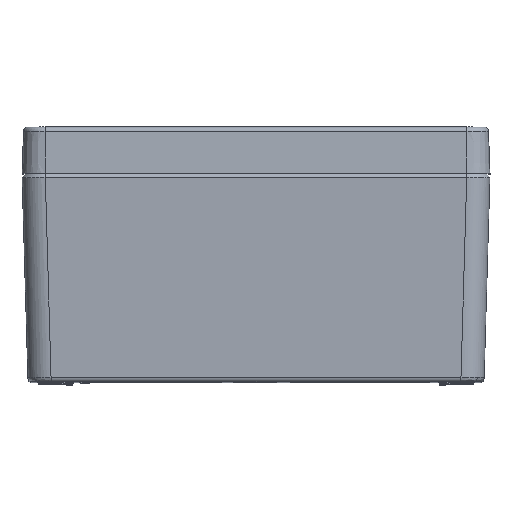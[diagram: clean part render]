
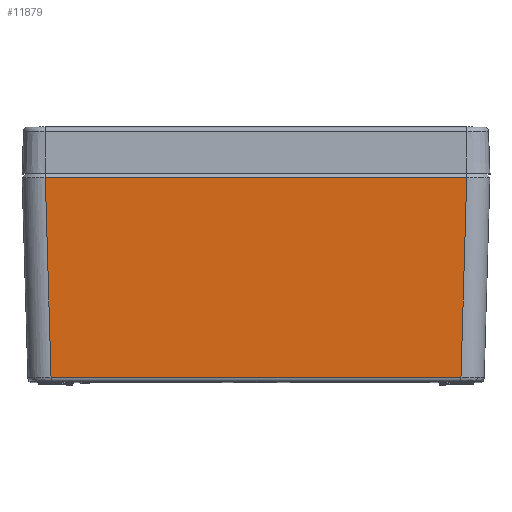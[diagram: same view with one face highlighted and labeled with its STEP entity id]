
A CAD part, top view. The second image highlights one B-rep face of the part: STEP entity #11879.
In plain terms, the highlighted planar face has unit normal (0, -0.029, 1).
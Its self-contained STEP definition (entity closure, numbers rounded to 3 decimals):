
#2363 = LINE ( 'NONE', #54683, #78113 ) ;
#3118 = VERTEX_POINT ( 'NONE', #6996 ) ;
#3616 = CARTESIAN_POINT ( 'NONE',  ( -101., -1.779, 115.949 ) ) ;
#5935 = VECTOR ( 'NONE', #66902, 1000. ) ;
#6996 = CARTESIAN_POINT ( 'NONE',  ( 90.953, -1.779, 115.949 ) ) ;
#11646 = ORIENTED_EDGE ( 'NONE', *, *, #97629, .T. ) ;
#11879 = ADVANCED_FACE ( 'NONE', ( #34762 ), #102334, .T. ) ;
#13768 = CARTESIAN_POINT ( 'NONE',  ( -90.953, -1.779, 115.949 ) ) ;
#16068 = VECTOR ( 'NONE', #94009, 1000. ) ;
#20087 = CARTESIAN_POINT ( 'NONE',  ( -88.46, -88.058, 113.456 ) ) ;
#21093 = DIRECTION ( 'NONE',  ( -1., 0., 0. ) ) ;
#33831 = ORIENTED_EDGE ( 'NONE', *, *, #39421, .T. ) ;
#34762 = FACE_OUTER_BOUND ( 'NONE', #111265, .T. ) ;
#39421 = EDGE_CURVE ( 'NONE', #43339, #3118, #2363, .T. ) ;
#40018 = LINE ( 'NONE', #74330, #16068 ) ;
#41526 = DIRECTION ( 'NONE',  ( 0., -0.029, 1. ) ) ;
#43191 = DIRECTION ( 'NONE',  ( -1., 0., 0. ) ) ;
#43339 = VERTEX_POINT ( 'NONE', #66162 ) ;
#54166 = ORIENTED_EDGE ( 'NONE', *, *, #77545, .T. ) ;
#54683 = CARTESIAN_POINT ( 'NONE',  ( 90.844, -5.538, 115.84 ) ) ;
#66162 = CARTESIAN_POINT ( 'NONE',  ( 88.46, -88.058, 113.456 ) ) ;
#66902 = DIRECTION ( 'NONE',  ( 0.029, -0.999, -0.029 ) ) ;
#68963 = ORIENTED_EDGE ( 'NONE', *, *, #87086, .T. ) ;
#72752 = AXIS2_PLACEMENT_3D ( 'NONE', #110239, #41526, #43191 ) ;
#74330 = CARTESIAN_POINT ( 'NONE',  ( 88.404, -88.058, 113.456 ) ) ;
#77545 = EDGE_CURVE ( 'NONE', #3118, #96651, #97084, .T. ) ;
#78113 = VECTOR ( 'NONE', #96389, 1000. ) ;
#87086 = EDGE_CURVE ( 'NONE', #89791, #43339, #40018, .T. ) ;
#89791 = VERTEX_POINT ( 'NONE', #20087 ) ;
#94009 = DIRECTION ( 'NONE',  ( 1., 0., 0. ) ) ;
#96389 = DIRECTION ( 'NONE',  ( 0.029, 0.999, 0.029 ) ) ;
#96651 = VERTEX_POINT ( 'NONE', #13768 ) ;
#97084 = LINE ( 'NONE', #3616, #97675 ) ;
#97629 = EDGE_CURVE ( 'NONE', #96651, #89791, #102963, .T. ) ;
#97675 = VECTOR ( 'NONE', #21093, 1000. ) ;
#102334 = PLANE ( 'NONE',  #72752 ) ;
#102963 = LINE ( 'NONE', #111424, #5935 ) ;
#110239 = CARTESIAN_POINT ( 'NONE',  ( -101., 0., 116. ) ) ;
#111265 = EDGE_LOOP ( 'NONE', ( #11646, #68963, #33831, #54166 ) ) ;
#111424 = CARTESIAN_POINT ( 'NONE',  ( -91.012, 0.288, 116.008 ) ) ;
